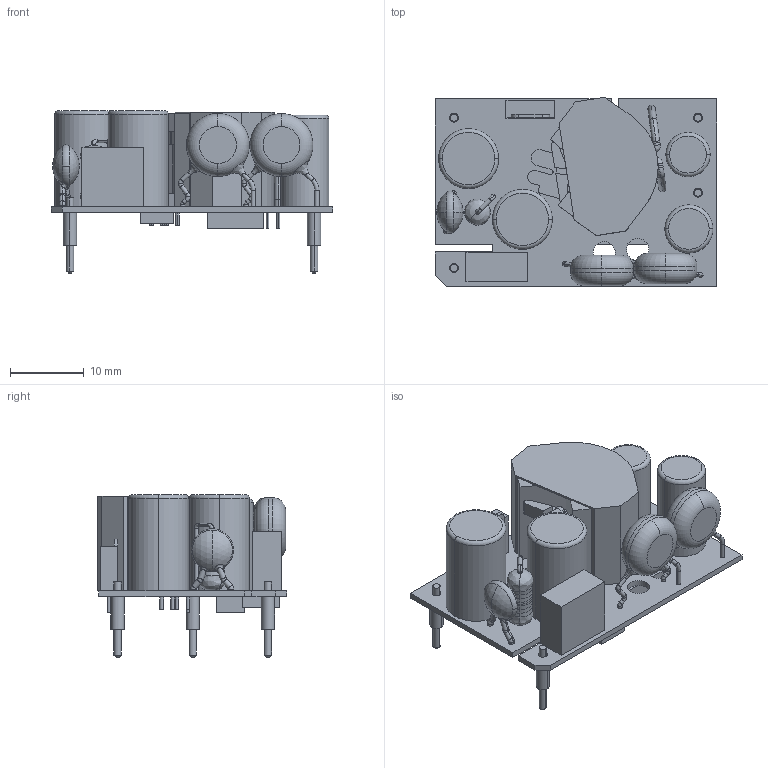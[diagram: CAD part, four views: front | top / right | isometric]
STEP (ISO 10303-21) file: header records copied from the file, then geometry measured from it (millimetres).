
FILE_DESCRIPTION (( 'STEP AP214' ), '1' );
FILE_NAME ('CFM12SXXX¦¨«~¹Ï(03) 2020,04,21.STEP', '2020-04-21T02:40:37', ( '' ), ( '' ), 'SwSTEP 2.0', 'SolidWorks 2017', '' );
FILE_SCHEMA (( 'AUTOMOTIVE_DESIGN' ));
Length unit declared in the file: millimetre
Products named in the file (7): CFM12S變壓器示意圖 2018,10,29; CFM12 電晶體示意圖 2018,10,29; CFM12S PCB(03) 2020,04,21; CFM12 Axial0_4_10K-1060316; CFM12陶瓷電容示意圖 2018,10,29; CFM12SXXX成品圖(03) 2020,04,21; G7205030099ｶ鷄IN 2018,10,30
Assembly tree (9 placements, depth 2):
  CFM12SXXX成品圖(03) 2020,04,21
    CFM12S PCB(03) 2020,04,21
    CFM12 Axial0_4_10K-1060316
    CFM12 電晶體示意圖 2018,10,29
    CFM12陶瓷電容示意圖 2018,10,29
    G7205030099ｶ鷄IN 2018,10,30  x4
    CFM12S變壓器示意圖 2018,10,29
Bounding box: 38.1 x 25.6 x 22 mm (x, y, z)
Volume: 6343.2 mm3; surface area: 5828.7 mm2
Topology: 14 solids, 14 shells, 432 faces, 1049 edges, 662 vertices
Faces by surface type: plane 161, cylinder 138, bspline 64, torus 57, cone 8, sphere 4
Entity records: 14905 total; most frequent: CARTESIAN_POINT 4614, DIRECTION 1980, ORIENTED_EDGE 1958, EDGE_CURVE 979, AXIS2_PLACEMENT_3D 778, VERTEX_POINT 620, EDGE_LOOP 443, CIRCLE 434
